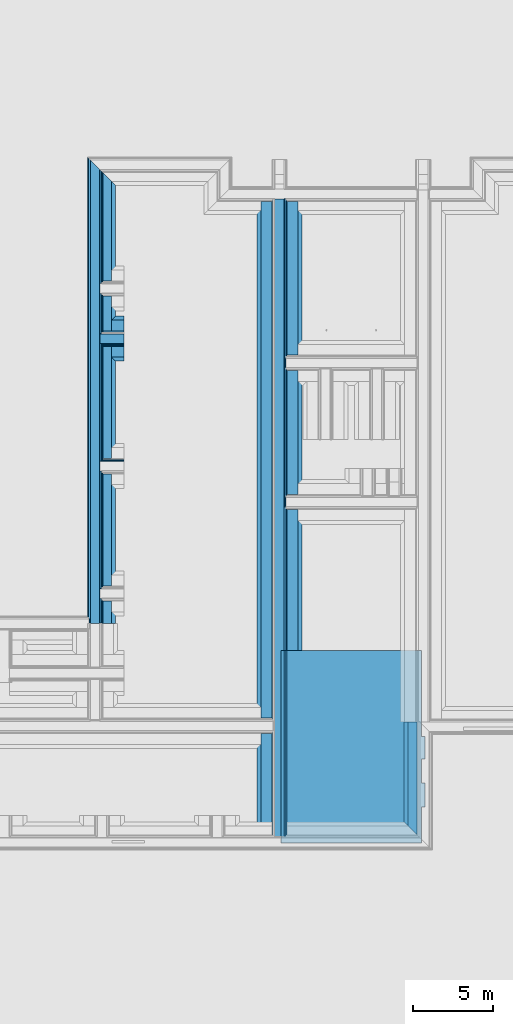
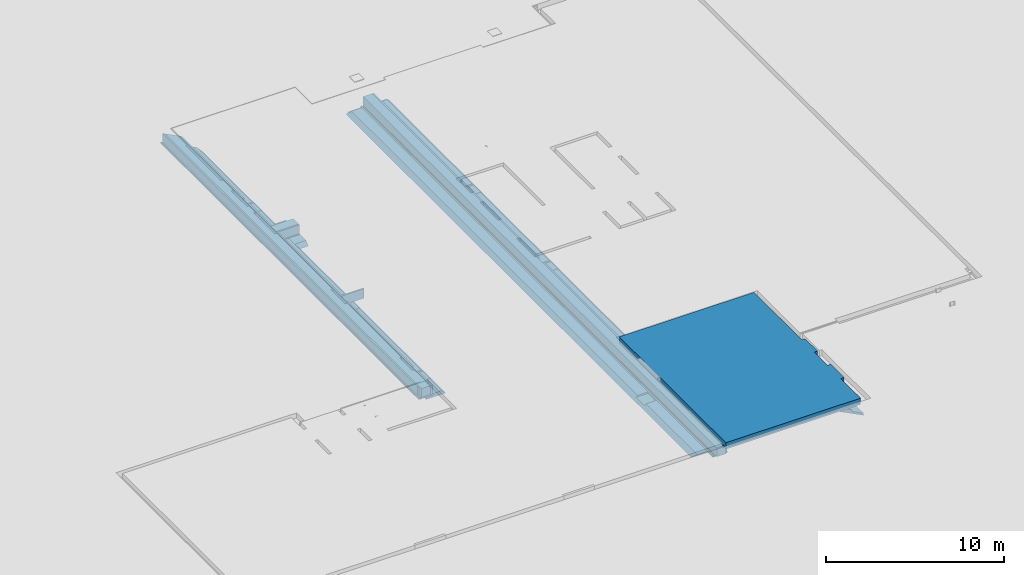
# One storey, part 8 of 15: 17 building element parts, 6 elements without a shape of their own.
"""IFC2X3 building model written with IfcOpenShell, lengths in millimetres."""

from ifc_helpers import new_model, entity, si_unit, converted_unit, derived_unit, money_unit, direction, frame, origin_with_axes, place, context, subcontext, project, spatial, faceted_brep, material, type_object, element, aggregate, save


model = new_model("IFC2X3")

# Units and contexts
model_context = context("Model", 3, precision=0.01, world=origin_with_axes(), true_north=direction((0.0, 1.0)))
plan_context = context("Plan", 3, precision=0.01, world=origin_with_axes(), true_north=direction((0.0, 1.0)))
body_context = subcontext(model_context, "Body", "Model", "MODEL_VIEW")
ifc_project = project(units=[si_unit("LENGTHUNIT", "METRE", prefix="MILLI"), si_unit("AREAUNIT", "SQUARE_METRE"), si_unit("VOLUMEUNIT", "CUBIC_METRE"), converted_unit("PLANEANGLEUNIT", "DEGREE", entity("IfcPlaneAngleMeasure", 0.0174532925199), si_unit("PLANEANGLEUNIT", "RADIAN"), dimensions=[0, 0, 0, 0, 0, 0, 0]), money_unit("EUR"), converted_unit("TIMEUNIT", "Year", entity("IfcTimeMeasure", 31556926.0), si_unit("TIMEUNIT", "SECOND"), dimensions=[0, 0, 1, 0, 0, 0, 0]), si_unit("MASSUNIT", "GRAM", prefix="KILO"), si_unit("THERMODYNAMICTEMPERATUREUNIT", "DEGREE_CELSIUS"), si_unit("LUMINOUSINTENSITYUNIT", "LUMEN"), si_unit("ENERGYUNIT", "JOULE", prefix="MEGA"), derived_unit("THERMALCONDUCTANCEUNIT", [(si_unit("POWERUNIT", "WATT"), 1), (si_unit("LENGTHUNIT", "METRE"), -1), (si_unit("THERMODYNAMICTEMPERATUREUNIT", "KELVIN"), -1)]), derived_unit("SPECIFICHEATCAPACITYUNIT", [(si_unit("ENERGYUNIT", "JOULE"), 1), (si_unit("MASSUNIT", "GRAM", prefix="KILO"), -1), (si_unit("THERMODYNAMICTEMPERATUREUNIT", "KELVIN"), -1)]), derived_unit("MASSDENSITYUNIT", [(si_unit("MASSUNIT", "GRAM", prefix="KILO"), 1), (si_unit("VOLUMEUNIT", "CUBIC_METRE"), -1)])], contexts=[model_context, plan_context])

# Site, building, storey
site_placement = place(None, origin_with_axes())
site = spatial("IfcSite", under=ifc_project, at=site_placement, Name="Site", CompositionType="ELEMENT")
building_placement = place(site_placement, origin_with_axes())
building = spatial("IfcBuilding", under=site, at=building_placement, Name="Naam gebouw", CompositionType="ELEMENT")
storey_placement = place(building_placement, frame((0.0, 0.0, -1050.0), z_axis=(0.0, 0.0, 1.0), x_axis=(1.0, 0.0, 0.0)))
storey = spatial("IfcBuildingStorey", under=building, at=storey_placement, Name="fundering", CompositionType="ELEMENT", Elevation=-1050.0)

# Beam, building element parts
beam_type_1 = type_object("IfcBeamType", Name="Fundering balk IsoBouw Powerkist 2800 x 850", PredefinedType="BEAM")
beam_1_placement = place(storey_placement, frame((24125.0, 36200.0, -60.0000017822), z_axis=(0.0, 0.0, 1.0), x_axis=(0.0, -1.0, 0.0)))
beam_1 = element("IfcBeam", 1, at=beam_1_placement, inside=storey, type_object=beam_type_1, Name="28_Balk-x", ObjectType="BEAM")
ifc_material_1 = material(Name="ALG - TERREIN")
building_element_part_1_placement = place(beam_1_placement, origin_with_axes())
building_element_part_1 = element("IfcBuildingElementPart", 2, at=building_element_part_1_placement, material=ifc_material_1, Name="ALG - TERREIN", context=body_context, shape_type="Brep", body=[
    faceted_brep([(1400.00037562, 1295.00000274, -249.999996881), (-1400.00037562, 1295.00000274, -249.999996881), (-1400.00037562, 1803.44907352, -249.999996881), (1400.00037562, 1803.44907352, -249.999996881), (-1150.00039795, 1045.00001313, -7.27431315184e-06), (1150.00039795, 1045.00001313, -7.27431315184e-06), (475.000395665, 1045.00001313, -7.27431315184e-06), (475.000395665, 1145.00001516, -100.000009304), (-475.000395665, 1145.00001516, -100.000009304), (-475.000395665, 1045.00001313, -7.27431315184e-06), (-1150.00039795, 1803.44907352, -1.92126834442e-05), (-475.000395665, 1803.44907352, -100.00001028), (475.000395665, 1803.44907352, -100.00001028), (475.000395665, 1803.44907352, 2.25106189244e-05), (1150.00039795, 1803.44907352, -1.92126834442e-05), (-475.000395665, 1803.44907352, 2.25106189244e-05)], [[[0, 1, 2, 3]], [[4, 1, 0, 5, 6, 7, 8, 9]], [[1, 4, 10, 2]], [[11, 12, 13, 14, 3, 2, 10, 15]], [[5, 0, 3, 14]], [[6, 5, 14, 13]], [[7, 6, 13, 12]], [[8, 7, 12, 11]], [[9, 8, 11, 15]], [[4, 9, 15, 10]]]),
])
ifc_material_2 = material(Name="Isolatie - EPS")
building_element_part_2_placement = place(beam_1_placement, origin_with_axes())
building_element_part_2 = element("IfcBuildingElementPart", 3, at=building_element_part_2_placement, material=ifc_material_2, Name="Isolatie - EPS", context=body_context, shape_type="Brep", body=[
    faceted_brep([(-475.000375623, 495.00000274, -99.9999968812), (-475.000375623, 495.00000274, 7.15338899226e-07), (-475.000375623, 1803.44907352, 8.43651903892e-06), (-475.000375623, 1803.44907352, -99.9999968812), (-400.000361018, 495.00000274, 7.15338899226e-07), (475.000375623, 495.00000274, -99.9999968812), (475.000375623, 495.00000274, 7.15338899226e-07), (400.000361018, 495.00000274, 7.15338899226e-07), (380.000371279, 495.00000274, 7.15338899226e-07), (380.000371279, 495.00000274, -49.0824435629), (300.000369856, 495.00000274, -49.0824435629), (300.000369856, 495.00000274, 7.15338899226e-07), (-300.000369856, 495.00000274, 7.15338899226e-07), (-300.000369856, 495.00000274, -49.0824435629), (-380.000371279, 495.00000274, -49.0824435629), (-380.000371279, 495.00000274, 7.15338899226e-07), (-400.000361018, 1803.44907352, 8.43651903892e-06), (300.000369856, 1803.44907352, -49.0824435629), (380.000371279, 1803.44907352, -49.0824435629), (380.000371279, 1803.44907352, 8.43651903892e-06), (400.000361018, 1803.44907352, 8.43651903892e-06), (475.000375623, 1803.44907352, 8.43651926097e-06), (475.000375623, 1803.44907352, -99.9999968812), (-380.000371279, 1803.44907352, 8.43651903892e-06), (-380.000371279, 1803.44907352, -49.0824435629), (-300.000369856, 1803.44907352, -49.0824435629), (-300.000369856, 1803.44907352, 8.43651903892e-06), (300.000369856, 1803.44907352, 8.43651903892e-06)], [[[0, 1, 2, 3]], [[4, 1, 0, 5, 6, 7, 8, 9, 10, 11, 12, 13, 14, 15]], [[1, 4, 16, 2]], [[17, 18, 19, 20, 21, 22, 3, 2, 16, 23, 24, 25, 26, 27]], [[5, 0, 3, 22]], [[6, 5, 22, 21]], [[7, 6, 21, 20]], [[8, 7, 20, 19]], [[9, 8, 19, 18]], [[10, 9, 18, 17]], [[11, 10, 17, 27]], [[12, 11, 27, 26]], [[13, 12, 26, 25]], [[14, 13, 25, 24]], [[15, 14, 24, 23]], [[4, 15, 23, 16]]]),
])
building_element_part_3_placement = place(beam_1_placement, origin_with_axes())
building_element_part_3 = element("IfcBuildingElementPart", 4, at=building_element_part_3_placement, material=ifc_material_2, Name="Isolatie - EPS", context=body_context, shape_type="Brep", body=[
    faceted_brep([(300.00036966, 495.00000274, 7.15338899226e-07), (300.00036966, 419.999990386, 7.15338899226e-07), (300.00036966, 419.999990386, 600.000000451), (300.00036966, 1803.44907352, 600.000004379), (300.00036966, 1803.44907352, -49.0824424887), (300.00036966, 495.00000274, -49.0824424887), (400.000366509, 1803.44907352, 2.4249691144e-06), (400.000366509, 419.999990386, 7.15338899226e-07), (380.000369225, 495.00000274, 7.15338899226e-07), (380.000369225, 1803.44907352, 2.4249691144e-06), (400.000366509, 419.999990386, 600.000000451), (400.000366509, 1803.44907352, 600.000004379), (380.000369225, 1803.44907352, -49.0824424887), (380.000369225, 495.00000274, -49.0824424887)], [[[0, 1, 2, 3, 4, 5]], [[6, 7, 1, 0, 8, 9]], [[7, 10, 2, 1]], [[3, 2, 10, 11]], [[12, 4, 3, 11, 6, 9]], [[12, 13, 5, 4]], [[8, 0, 5, 13]], [[11, 10, 7, 6]], [[9, 8, 13, 12]]]),
])
ifc_material_3 = material(Name="Beton gewapend C")
building_element_part_4_placement = place(beam_1_placement, origin_with_axes())
building_element_part_4 = element("IfcBuildingElementPart", 5, at=building_element_part_4_placement, material=ifc_material_3, Name="Beton gewapend C", context=body_context, shape_type="Brep", body=[
    faceted_brep([(-300.000372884, 1803.44907352, 0.0), (-300.000372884, 320.0, 1.78216552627e-06), (-300.000372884, 320.0, 600.000001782), (-300.000372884, 1803.44907352, 600.0), (300.000372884, 1803.44907352, 0.0), (300.000372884, 320.0, 1.78216552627e-06), (300.000372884, 320.0, 600.000001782), (300.000372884, 1803.44907352, 600.0)], [[[0, 1, 2, 3]], [[4, 5, 1, 0]], [[5, 6, 2, 1]], [[3, 2, 6, 7]], [[4, 0, 3, 7]], [[7, 6, 5, 4]]]),
])
aggregate(beam_1, [building_element_part_1, building_element_part_2, building_element_part_3, building_element_part_4])

# Beam, building element part
beam_type_2 = type_object("IfcBeamType", Name="Fundering balk IsoBouw Powerkist buitenwand 1750 x 850", PredefinedType="BEAM")
beam_2_placement = place(storey_placement, frame((44654.9999844, 12050.0000337, -60.0000017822), z_axis=(0.0, 0.0, 1.0), x_axis=(-1.0, 0.0, 0.0)))
beam_2 = element("IfcBeam", 6, at=beam_2_placement, inside=storey, type_object=beam_type_2, Name="28_Balk-x", ObjectType="BEAM")
building_element_part_5_placement = place(beam_2_placement, origin_with_axes())
building_element_part_5 = element("IfcBuildingElementPart", 7, at=building_element_part_5_placement, material=ifc_material_1, Name="ALG - TERREIN", context=body_context, shape_type="Brep", body=[
    faceted_brep([(320.000053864, -320.000053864, -249.999996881), (320.000053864, -320.000053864, -100.00001028), (20.0000061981, -20.0000061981, -99.9999926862), (20.0000061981, -20.0000061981, -249.999996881), (585.000380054, -320.000053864, 2.25106189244e-05), (495.000015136, -320.000053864, 8.43651903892e-06), (495.000015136, -320.000053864, -100.00001028), (1295.00000274, -320.000053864, -249.999996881), (1045.00001313, -320.000053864, -5.92301629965e-06), (495.000015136, 6704.99999725, -99.9999926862), (20.0000061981, 7180.00000594, -99.9999926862), (20.0000061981, 7180.00000594, -249.999996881), (1295.00000274, 5905.00001008, -249.999996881), (1045.00001313, 6154.99999956, -7.27431315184e-06), (495.000015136, 6704.99999725, -7.27431315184e-06)], [[[0, 1, 2, 3]], [[4, 5, 6, 1, 0, 7, 8]], [[1, 6, 9, 10, 2]], [[2, 10, 11, 3]], [[7, 0, 3, 11, 12]], [[4, 8, 13, 14, 5]], [[6, 5, 14, 9]], [[8, 7, 12, 13]], [[14, 13, 12, 11, 10, 9]]]),
])
aggregate(beam_2, [building_element_part_5])

# Beam, building element parts
beam_3_placement = place(storey_placement, frame((24125.0, 18495.0, -60.0000017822), z_axis=(0.0, 0.0, 1.0), x_axis=(1.0, 0.0, 0.0)))
beam_3 = element("IfcBeam", 8, at=beam_3_placement, inside=storey, type_object=beam_type_2, Name="28_Balk-x", ObjectType="BEAM")
building_element_part_6_placement = place(beam_3_placement, origin_with_axes())
building_element_part_6 = element("IfcBuildingElementPart", 9, at=building_element_part_6_placement, material=ifc_material_1, Name="ALG - TERREIN", context=body_context, shape_type="Brep", body=[
    faceted_brep([(1145.00000274, 21305.0003756, -99.9999968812), (1145.00000274, 20354.9996244, -99.9999968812), (1045.00001313, 20354.9996244, 3.96089849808e-06), (1045.00001313, 18180.0003756, 3.96089827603e-06), (1145.00000274, 18180.0003756, -99.9999968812), (1145.00000274, 17229.9996244, -99.9999968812), (1045.00001313, 17229.9996244, 3.96089849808e-06), (1045.00001313, 10255.0003756, 3.96089827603e-06), (1145.00000274, 10255.0003756, -99.9999968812), (1145.00000274, 9304.99962438, -99.9999968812), (1045.00001313, 9304.99962438, 3.96089849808e-06), (1045.00001313, 2330.00037562, 3.96089827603e-06), (1145.00000274, 2330.00037562, -99.9999968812), (1145.00000274, 1379.99962438, -99.9999968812), (1045.00001313, 1379.99962438, 3.96089849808e-06), (1045.00001313, 0.0, -7.27431315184e-06), (1295.00000274, 0.0, -249.999996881), (1295.00000274, 27246.9999748, -249.999996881), (1045.00001313, 27496.9999644, -7.27431315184e-06), (1045.00001313, 21305.0003756, 3.96089827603e-06), (495.00000274, 18180.0003756, -99.9999968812), (495.00000274, 20354.9996244, -99.9999968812), (495.00000274, 21305.0003756, -99.9999968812), (495.000015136, 28046.9999624, -99.9999926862), (20.0000061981, 28521.9999713, -99.9999926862), (20.0000061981, 0.0, -99.9999926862), (495.000015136, 0.0, -99.9999926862), (495.00000274, 1379.99962438, -99.9999968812), (495.00000274, 2330.00037562, -99.9999968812), (495.00000274, 9304.99962438, -99.9999968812), (495.00000274, 10255.0003756, -99.9999968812), (495.00000274, 17229.9996244, -99.9999968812), (495.00000274, 20354.9996244, 7.15338899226e-07), (495.00000274, 18180.0003756, 7.15338899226e-07), (495.00000274, 17229.9996244, 7.15338899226e-07), (495.00000274, 10255.0003756, 7.15338899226e-07), (495.00000274, 9304.99962438, 7.15338899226e-07), (495.00000274, 2330.00037562, 7.15338899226e-07), (495.00000274, 1379.99962438, 7.15338899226e-07), (495.000015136, 0.0, -7.27431315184e-06), (20.0000061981, 0.0, -249.999996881), (20.0000061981, 28521.9999713, -249.999996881), (495.000015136, 28046.9999624, -7.27431315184e-06), (495.00000274, 21305.0003756, 7.15338899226e-07)], [[[0, 1, 2, 3, 4, 5, 6, 7, 8, 9, 10, 11, 12, 13, 14, 15, 16, 17, 18, 19]], [[20, 21, 1, 0, 22, 23, 24, 25, 26, 27, 13, 12, 28, 29, 9, 8, 30, 31, 5, 4]], [[32, 2, 1, 21]], [[3, 2, 32, 33]], [[4, 3, 33, 20]], [[6, 5, 31, 34]], [[6, 34, 35, 7]], [[35, 30, 8, 7]], [[29, 36, 10, 9]], [[37, 11, 10, 36]], [[11, 37, 28, 12]], [[13, 27, 38, 14]], [[38, 39, 15, 14]], [[39, 26, 25, 40, 16, 15]], [[40, 41, 17, 16]], [[17, 41, 24, 23, 42, 18]], [[42, 43, 19, 18]], [[22, 0, 19, 43]], [[33, 32, 21, 20]], [[23, 22, 43, 42]], [[25, 24, 41, 40]], [[27, 26, 39, 38]], [[28, 37, 36, 29]], [[34, 31, 30, 35]]]),
])
building_element_part_7_placement = place(beam_3_placement, origin_with_axes())
building_element_part_7 = element("IfcBuildingElementPart", 10, at=building_element_part_7_placement, material=ifc_material_2, Name="Isolatie - EPS", context=body_context, shape_type="Brep", body=[
    faceted_brep([(400.000002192, 0.0, 7.15338899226e-07), (400.000002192, 28141.9999753, 7.15338899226e-07), (400.000002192, 28141.9999753, -49.0824410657), (400.000002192, 0.0, -49.0824410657), (419.999990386, 0.0, 7.15338899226e-07), (419.999990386, 28121.9999871, 7.15338899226e-07), (-279.99999279, 28821.9999703, -49.0824410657), (-279.99999279, 28821.9999703, 7.15338899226e-07), (319.99999279, 28221.9999847, 7.15338899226e-07), (319.99999279, 28221.9999847, -49.0824410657), (495.00000274, 28046.9999748, 7.15338899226e-07), (495.00000274, 28046.9999748, -99.9999968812), (20.0000061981, 28521.9999713, -99.9999926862), (-455.00000274, 28996.9999802, -99.9999968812), (-455.00000274, 28996.9999802, 7.15338899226e-07), (-379.999990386, 28921.9999679, 7.15338899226e-07), (-360.000002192, 28901.9999797, 7.15338899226e-07), (-360.000002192, 28901.9999797, -49.0824410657), (319.99999279, 0.0, -49.0824410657), (-455.00000274, 0.0, -99.9999968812), (20.0000061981, 0.0, -99.9999926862), (495.00000274, 0.0, -99.9999968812), (495.00000274, 0.0, 7.15338899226e-07), (319.99999279, 0.0, 7.15338899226e-07), (-279.99999279, 0.0, 7.15338899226e-07), (-279.99999279, 0.0, -49.0824410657), (-360.000002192, 0.0, -49.0824410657), (-360.000002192, 0.0, 7.15338899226e-07), (-379.999990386, 0.0, 7.15338899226e-07), (-455.00000274, 0.0, 7.15338899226e-07)], [[[0, 1, 2, 3]], [[4, 5, 1, 0]], [[6, 7, 8, 9, 2, 1, 5, 10, 11, 12, 13, 14, 15, 16, 17]], [[3, 2, 9, 18]], [[19, 20, 21, 22, 4, 0, 3, 18, 23, 24, 25, 26, 27, 28, 29]], [[22, 10, 5, 4]], [[24, 7, 6, 25]], [[23, 8, 7, 24]], [[18, 9, 8, 23]], [[21, 11, 10, 22]], [[20, 12, 11, 21]], [[19, 13, 12, 20]], [[29, 14, 13, 19]], [[28, 15, 14, 29]], [[27, 16, 15, 28]], [[26, 17, 16, 27]], [[25, 6, 17, 26]]]),
])
building_element_part_8_placement = place(beam_3_placement, origin_with_axes())
building_element_part_8 = element("IfcBuildingElementPart", 11, at=building_element_part_8_placement, material=ifc_material_2, Name="Isolatie - EPS", context=body_context, shape_type="Brep", body=[
    faceted_brep([(-379.999993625, 28921.9999711, 600.000001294), (-379.999993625, 280.0, 599.999999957), (-280.0, 280.0, 600.0), (-279.999999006, 28821.9999765, 600.000001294), (-379.999993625, 28921.9999711, 2.28759100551e-06), (-379.999993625, 280.0, -4.30000479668e-08), (-359.999996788, 280.0, -3.43998163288e-08), (-280.0, 280.0, 0.0), (-280.0, 0.0, 0.0), (-279.999999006, 0.0, -49.0824424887), (-279.999999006, 28821.9999765, -49.0824424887), (-359.999996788, 28901.9999743, -49.0824424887), (-359.999996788, 28901.9999743, 2.28759100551e-06), (-359.999996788, 0.0, 1.78216552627e-06), (-359.999996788, 0.0, -49.0824424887)], [[[0, 1, 2, 3]], [[4, 5, 1, 0]], [[6, 7, 2, 1, 5]], [[2, 7, 8, 9, 10, 3]], [[11, 12, 4, 0, 3, 10]], [[12, 6, 5, 4]], [[13, 8, 7, 6]], [[9, 8, 13, 14]], [[9, 14, 11, 10]], [[14, 13, 6, 12, 11]]]),
])
building_element_part_9_placement = place(beam_3_placement, origin_with_axes())
building_element_part_9 = element("IfcBuildingElementPart", 12, at=building_element_part_9_placement, material=ifc_material_2, Name="Isolatie - EPS", context=body_context, shape_type="Brep", body=[
    faceted_brep([(419.999993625, 28121.9999839, 600.000003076), (319.999999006, 28221.9999785, 600.000003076), (320.0, 21130.0003729, 600.000001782), (419.999993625, 21130.0003729, 600.000001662), (419.999993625, 28121.9999839, 4.06975675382e-06), (399.999996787, 28141.9999807, 4.06975675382e-06), (399.999996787, 28141.9999807, -49.0824407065), (319.999999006, 28221.9999785, -49.0824407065), (320.0, 20529.9996271, 600.000001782), (320.0, 20529.9996271, 1.78216552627e-06), (320.0, 21130.0003729, 1.78216552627e-06), (319.999999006, 0.0, -49.0824407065), (319.999999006, 0.0, 600.000003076), (320.0, 1554.99962712, 600.000001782), (320.0, 1554.99962712, 1.78216552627e-06), (320.0, 2155.00037288, 1.78216552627e-06), (320.0, 2155.00037288, 600.000001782), (320.0, 9479.99962712, 600.000001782), (320.0, 9479.99962712, 1.78216552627e-06), (320.0, 10080.0003729, 1.78216552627e-06), (320.0, 10080.0003729, 600.000001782), (320.0, 17404.9996271, 600.000001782), (320.0, 17404.9996271, 1.78216552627e-06), (320.0, 18005.0003729, 1.78216552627e-06), (320.0, 18005.0003729, 600.000001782), (399.999996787, 21130.0003729, 1.68605618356e-06), (419.999993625, 21130.0003729, 1.6620289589e-06), (399.999996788, 20529.9996271, 1.68605618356e-06), (399.999996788, 18005.0003729, 1.68605618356e-06), (399.999996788, 17404.9996271, 1.68605618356e-06), (399.999996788, 10080.0003729, 1.68605618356e-06), (399.999996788, 9479.99962712, 1.68605618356e-06), (399.999996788, 2155.00037288, 1.68605618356e-06), (399.999996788, 1554.99962712, 1.68605618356e-06), (399.999996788, 0.0, 4.06975675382e-06), (399.999996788, 0.0, -49.0824407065), (419.999993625, 20529.9996271, 600.000001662), (419.999993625, 20529.9996271, 1.6620289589e-06), (419.999993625, 0.0, 600.000003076), (419.999993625, 0.0, 4.06975675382e-06), (419.999993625, 1554.99962712, 600.000001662), (419.999993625, 1554.99962712, 1.6620289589e-06), (419.999993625, 2155.00037288, 600.000001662), (419.999993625, 2155.00037288, 1.6620289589e-06), (419.999993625, 9479.99962712, 600.000001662), (419.999993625, 9479.99962712, 1.6620289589e-06), (419.999993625, 10080.0003729, 1.6620289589e-06), (419.999993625, 10080.0003729, 600.000001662), (419.999993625, 17404.9996271, 600.000001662), (419.999993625, 17404.9996271, 1.6620289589e-06), (419.999993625, 18005.0003729, 1.6620289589e-06), (419.999993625, 18005.0003729, 600.000001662)], [[[0, 1, 2, 3]], [[0, 4, 5, 6, 7, 1]], [[8, 9, 10, 2, 1, 7, 11, 12, 13, 14, 15, 16, 17, 18, 19, 20, 21, 22, 23, 24]], [[10, 25, 26, 3, 2]], [[4, 0, 3, 26]], [[5, 4, 26, 25]], [[6, 5, 25, 27, 28, 29, 30, 31, 32, 33, 34, 35]], [[35, 11, 7, 6]], [[27, 9, 8, 36, 37]], [[10, 9, 27, 25]], [[38, 12, 11, 35, 34, 39]], [[40, 13, 12, 38]], [[40, 41, 33, 14, 13]], [[33, 32, 15, 14]], [[42, 16, 15, 32, 43]], [[17, 16, 42, 44]], [[45, 31, 18, 17, 44]], [[30, 19, 18, 31]], [[20, 19, 30, 46, 47]], [[47, 48, 21, 20]], [[21, 48, 49, 29, 22]], [[22, 29, 28, 23]], [[50, 51, 24, 23, 28]], [[24, 51, 36, 8]], [[50, 28, 27, 37]], [[30, 29, 49, 46]], [[45, 43, 32, 31]], [[33, 41, 39, 34]], [[51, 50, 37, 36]], [[41, 40, 38, 39]], [[44, 42, 43, 45]], [[46, 49, 48, 47]]]),
])
building_element_part_10_placement = place(beam_3_placement, origin_with_axes())
building_element_part_10 = element("IfcBuildingElementPart", 13, at=building_element_part_10_placement, material=ifc_material_3, Name="Beton gewapend C", context=body_context, shape_type="Brep", body=[
    faceted_brep([(320.0, 0.0, 600.000001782), (320.0, 28221.9999775, 600.000001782), (-280.0, 28821.9999775, 600.0), (-280.0, 0.0, 600.0), (320.0, 0.0, 1.78216552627e-06), (320.0, 28221.9999775, 1.78216552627e-06), (-280.0, 28821.9999775, 0.0), (-280.0, 0.0, 0.0)], [[[0, 1, 2, 3]], [[4, 5, 1, 0]], [[2, 1, 5, 6]], [[3, 2, 6, 7]], [[4, 0, 3, 7]], [[7, 6, 5, 4]]]),
])
aggregate(beam_3, [building_element_part_6, building_element_part_7, building_element_part_8, building_element_part_9, building_element_part_10])

# Beam, building element part
beam_4_placement = place(storey_placement, frame((24125.0, 28275.0, -60.0000017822), z_axis=(0.0, 0.0, 1.0), x_axis=(0.0, -1.0, 0.0)))
beam_4 = element("IfcBeam", 14, at=beam_4_placement, inside=storey, type_object=beam_type_1, Name="28_Balk-x", ObjectType="BEAM")
building_element_part_11_placement = place(beam_4_placement, origin_with_axes())
building_element_part_11 = element("IfcBuildingElementPart", 15, at=building_element_part_11_placement, material=ifc_material_2, Name="Isolatie - EPS", context=body_context, shape_type="Brep", body=[
    faceted_brep([(-380.000369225, 1803.44907352, -49.0824424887), (-380.000369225, 495.00000274, -49.0824424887), (-380.000369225, 495.00000274, 7.15338899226e-07), (-380.000369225, 1803.44907352, 2.4249691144e-06), (-300.00036966, 1803.44907352, -49.0824424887), (-300.00036966, 495.00000274, -49.0824424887), (-300.00036966, 495.00000274, 7.15338899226e-07), (-300.00036966, 419.999990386, 7.15338899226e-07), (-400.000366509, 419.999990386, 7.15338899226e-07), (-400.000366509, 1803.44907352, 2.4249691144e-06), (-400.000366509, 1803.44907352, 600.000004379), (-300.00036966, 1803.44907352, 600.000004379), (-300.00036966, 419.999990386, 600.000000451), (-400.000366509, 419.999990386, 600.000000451)], [[[0, 1, 2, 3]], [[4, 5, 1, 0]], [[6, 2, 1, 5]], [[6, 7, 8, 9, 3, 2]], [[4, 0, 3, 9, 10, 11]], [[7, 6, 5, 4, 11, 12]], [[7, 12, 13, 8]], [[9, 8, 13, 10]], [[10, 13, 12, 11]]]),
])
aggregate(beam_4, [building_element_part_11])

# Furnishing, building element parts
furniture_type = type_object("IfcFurnitureType", Name="23 kanaaplaat VBI Rc 3,7 132mm excl. afwerklaag 440", AssemblyPlace="NOTDEFINED")
furnishing_placement = place(storey_placement, frame((35705.0, 16825.0, 510.0), z_axis=(0.0, 0.0, 1.0), x_axis=(1.0, 0.0, 0.0)))
furnishing = element("IfcFurnishingElement", 16, at=furnishing_placement, inside=storey, type_object=furniture_type, Name="72_23 VBI 260 Rc 3,7", ObjectType="SHELF")
ifc_material_4 = material(Name="Beton gewapend prefab vloer")
building_element_part_12_placement = place(furnishing_placement, origin_with_axes())
building_element_part_12 = element("IfcBuildingElementPart", 17, at=building_element_part_12_placement, material=ifc_material_4, Name="Beton gewapend prefab vloer", context=body_context, shape_type="Brep", body=[
    faceted_brep([(0.0, -11975.0, 120.0), (0.0, -11975.0, 440.0), (0.0, 0.0, 440.0), (0.0, 0.0, 120.0), (8740.0001785, -11975.0, 120.0), (8740.0001785, -11975.0, 440.0), (8740.0001785, -9759.9904873, 440.0), (8950.00016445, -9759.9904873, 440.0), (8950.00034063, -8259.99041151, 440.0), (8740.00053088, -8259.99041151, 440.0), (8740.00053088, -6774.99993694, 440.0), (8950.00034063, -6774.99993694, 440.0), (8950.00016445, -5375.00008937, 440.0), (8740.00070707, -5374.99956081, 440.0), (8740.00070707, 0.0, 440.0), (8740.00070707, 0.0, 120.0), (8740.00070707, -5374.99956081, 120.0), (8950.00016445, -5375.00008937, 120.0), (8950.00034063, -6774.99993694, 120.0), (8740.00053088, -6774.99993694, 120.0), (8740.00053088, -8259.99041151, 120.0), (8950.00034063, -8259.99041151, 120.0), (8950.00016445, -9759.9904873, 120.0), (8740.0001785, -9759.9904873, 120.0)], [[[0, 1, 2, 3]], [[4, 5, 1, 0]], [[2, 1, 5, 6, 7, 8, 9, 10, 11, 12, 13, 14]], [[3, 2, 14, 15]], [[3, 15, 16, 17, 18, 19, 20, 21, 22, 23, 4, 0]], [[23, 6, 5, 4]], [[22, 7, 6, 23]], [[21, 8, 7, 22]], [[20, 9, 8, 21]], [[19, 10, 9, 20]], [[18, 11, 10, 19]], [[17, 12, 11, 18]], [[16, 13, 12, 17]], [[15, 14, 13, 16]]]),
])
ifc_material_5 = material(Name="Isolatie - EPS vloer")
building_element_part_13_placement = place(furnishing_placement, origin_with_axes())
building_element_part_13 = element("IfcBuildingElementPart", 18, at=building_element_part_13_placement, material=ifc_material_5, Name="Isolatie - EPS vloer", context=body_context, shape_type="Brep", body=[
    faceted_brep([(0.0, 0.0, 0.0), (0.0, -11975.0, 0.0), (0.0, -11975.0, 120.0), (0.0, 0.0, 120.0), (8740.00070707, 0.0, 0.0), (8740.00070707, -5374.99956081, 0.0), (8950.00016445, -5375.00008937, 0.0), (8950.00034063, -6774.99993694, 0.0), (8740.00053088, -6774.99993694, 0.0), (8740.00053088, -8259.99041151, 0.0), (8950.00034063, -8259.99041151, 0.0), (8950.00016445, -9759.9904873, 0.0), (8740.0001785, -9759.9904873, 0.0), (8740.0001785, -11975.0, 0.0), (8740.0001785, -11975.0, 120.0), (8740.0001785, -9759.9904873, 120.0), (8950.00016445, -9759.9904873, 120.0), (8950.00034063, -8259.99041151, 120.0), (8740.00053088, -8259.99041151, 120.0), (8740.00053088, -6774.99993694, 120.0), (8950.00034063, -6774.99993694, 120.0), (8950.00016445, -5375.00008937, 120.0), (8740.00070707, -5374.99956081, 120.0), (8740.00070707, 0.0, 120.0)], [[[0, 1, 2, 3]], [[0, 4, 5, 6, 7, 8, 9, 10, 11, 12, 13, 1]], [[1, 13, 14, 2]], [[3, 2, 14, 15, 16, 17, 18, 19, 20, 21, 22, 23]], [[4, 0, 3, 23]], [[5, 4, 23, 22]], [[6, 5, 22, 21]], [[7, 6, 21, 20]], [[8, 7, 20, 19]], [[9, 8, 19, 18]], [[10, 9, 18, 17]], [[11, 10, 17, 16]], [[12, 11, 16, 15]], [[13, 12, 15, 14]]]),
])
aggregate(furnishing, [building_element_part_12, building_element_part_13])

# Beam, building element parts
beam_5_placement = place(storey_placement, frame((35605.0, 44903.0000407, -60.0000017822), z_axis=(0.0, 0.0, 1.0), x_axis=(-1.0, 0.0, 0.0)))
beam_5 = element("IfcBeam", 19, at=beam_5_placement, inside=storey, type_object=beam_type_1, Name="28_Balk-x", ObjectType="BEAM")
building_element_part_14_placement = place(beam_5_placement, origin_with_axes())
building_element_part_14 = element("IfcBuildingElementPart", 20, at=building_element_part_14_placement, material=ifc_material_1, Name="ALG - TERREIN", context=body_context, shape_type="Brep", body=[
    faceted_brep([(-1150.00039795, 39008.0000103, 4.91828799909e-09), (-1400.00037629, 38758.0000205, -249.999996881), (-1400.00037562, 0.0, -249.999996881), (-1250.00037562, 2.96205797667e-05, -99.9999968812), (-1250.00037562, 175.000043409, -99.9999968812), (-1150.00039795, 175.000043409, 3.86505583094e-06), (-1150.00039795, 9727.99962927, 1.52455683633e-05), (-1250.00037562, 9727.99962927, -99.9999968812), (-1250.00037562, 10678.0003805, -99.9999968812), (-1150.00039795, 10678.0003805, 1.52455683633e-05), (-1150.00039795, 18387.999665, 1.52455683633e-05), (-1250.00037562, 18387.999665, -99.9999968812), (-1250.00037562, 19338.0004163, -99.9999968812), (-1150.00039795, 19338.0004163, 1.52455683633e-05), (1400.00037587, 38758.000022, -249.999996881), (-475.000394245, 39008.0000106, 7.21691595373e-07), (-475.000394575, 38908.0000108, -100.000007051), (475.000392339, 38908.0000126, -100.000005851), (475.000391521, 39008.0000111, 1.73048464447e-06), (1150.00039795, 39008.0000115, 2.44725817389e-06), (1400.00037562, 0.0, -249.999996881), (475.000395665, 0.0, -99.9999968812), (-475.000395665, 0.0, -99.9999968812), (1250.00037667, 2.96205797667e-05, -99.9999968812), (-475.000395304, 175.000043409, -99.9999968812), (-475.000395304, 175.000043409, 3.44321882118e-06), (-475.000375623, 9727.99962927, 1.52455683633e-05), (-475.000375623, 9727.99962927, -99.9999968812), (-475.000375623, 19338.0004163, -99.9999968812), (-475.000375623, 18387.999665, -99.9999968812), (-475.000375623, 10678.0003805, -99.9999968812), (475.000395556, 175.000043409, -99.9999968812), (475.000375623, 32302.9992922, -99.9999968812), (1250.00037562, 32302.9992922, -99.9999968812), (1250.00037562, 33253.0007892, -99.9999968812), (475.000375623, 33253.0007892, -99.9999968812), (-475.000375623, 10678.0003805, 1.52455683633e-05), (-475.000375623, 18387.999665, 1.52455683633e-05), (-475.000375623, 19338.0004163, 1.52455683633e-05), (475.000375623, 33253.0007892, 1.52455683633e-05), (1150.00039795, 33253.0007892, 1.495473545e-05), (1150.00039795, 32302.9992922, 1.495473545e-05), (1150.00039795, 175.000043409, 2.42768471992e-06), (1250.00040979, 175.000043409, -99.9999968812), (475.000395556, 175.000043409, 2.84952172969e-06), (475.000375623, 32302.9992922, 1.52455683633e-05)], [[[0, 1, 2, 3, 4, 5, 6, 7, 8, 9, 10, 11, 12, 13]], [[14, 1, 0, 15, 16, 17, 18, 19]], [[1, 14, 20, 2]], [[21, 22, 3, 2, 20, 23]], [[24, 4, 3, 22]], [[25, 5, 4, 24]], [[6, 5, 25, 26]], [[6, 26, 27, 7]], [[17, 16, 28, 12, 11, 29, 30, 8, 7, 27, 24, 22, 21, 31, 32, 33, 34, 35]], [[8, 30, 36, 9]], [[9, 36, 37, 10]], [[37, 29, 11, 10]], [[28, 38, 13, 12]], [[15, 0, 13, 38]], [[16, 15, 38, 28]], [[18, 17, 35, 39]], [[19, 18, 39, 40]], [[14, 19, 40, 34, 33, 41, 42, 43, 23, 20]], [[43, 31, 21, 23]], [[26, 25, 24, 27]], [[36, 30, 29, 37]], [[32, 31, 44, 45]], [[32, 45, 41, 33]], [[40, 39, 35, 34]], [[45, 44, 42, 41]], [[43, 42, 44, 31]]]),
])
building_element_part_15_placement = place(beam_5_placement, origin_with_axes())
building_element_part_15 = element("IfcBuildingElementPart", 21, at=building_element_part_15_placement, material=ifc_material_2, Name="Isolatie - EPS", context=body_context, shape_type="Brep", body=[
    faceted_brep([(-400.000361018, 39558.0000211, 7.15338899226e-07), (-475.000375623, 39558.000021, 7.15338899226e-07), (-475.000375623, 0.0, 8.43651903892e-06), (-400.000361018, 0.0, 8.43651903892e-06), (-475.000375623, 39558.000021, -99.9999968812), (-380.000371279, 39558.0000211, 7.15338899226e-07), (-380.000371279, 39558.0000211, -49.0824435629), (-300.000369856, 39558.0000211, -49.0824435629), (-300.000369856, 39558.0000211, 7.15338899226e-07), (300.000369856, 39558.0000214, 7.15338899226e-07), (300.000369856, 39558.0000214, -49.0824435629), (380.000371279, 39558.0000215, -49.0824435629), (380.000371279, 39558.0000215, 7.15338899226e-07), (400.000361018, 39558.0000215, 7.15338899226e-07), (475.000375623, 39558.0000215, 7.15338899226e-07), (475.000375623, 39558.0000215, -99.9999968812), (-475.000375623, 0.0, -99.9999968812), (475.000375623, 0.0, -99.9999968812), (475.000375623, 0.0, 8.43651926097e-06), (400.000361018, 0.0, 8.43651903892e-06), (380.000371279, 0.0, 8.43651903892e-06), (380.000371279, 0.0, -49.0824435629), (300.000369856, 0.0, -49.0824435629), (300.000369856, 0.0, 8.43651903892e-06), (-300.000369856, 0.0, 8.43651903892e-06), (-300.000369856, 0.0, -49.0824435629), (-380.000371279, 0.0, -49.0824435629), (-380.000371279, 0.0, 8.43651903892e-06)], [[[0, 1, 2, 3]], [[4, 1, 0, 5, 6, 7, 8, 9, 10, 11, 12, 13, 14, 15]], [[1, 4, 16, 2]], [[3, 2, 16, 17, 18, 19, 20, 21, 22, 23, 24, 25, 26, 27]], [[5, 0, 3, 27]], [[6, 5, 27, 26]], [[7, 6, 26, 25]], [[8, 7, 25, 24]], [[9, 8, 24, 23]], [[10, 9, 23, 22]], [[11, 10, 22, 21]], [[12, 11, 21, 20]], [[13, 12, 20, 19]], [[14, 13, 19, 18]], [[15, 14, 18, 17]], [[4, 15, 17, 16]]]),
])
building_element_part_16_placement = place(beam_5_placement, origin_with_axes())
building_element_part_16 = element("IfcBuildingElementPart", 22, at=building_element_part_16_placement, material=ifc_material_2, Name="Isolatie - EPS", context=body_context, shape_type="Brep", body=[
    faceted_brep([(-300.000371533, 28078.0000406, 600.000000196), (-400.000366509, 28078.0000406, 600.000000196), (-400.000366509, 19163.0004136, 600.0), (-300.000372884, 19163.0004136, 600.0), (-400.000366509, 28078.0000406, 570.000001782), (-300.000372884, 28078.0000406, 570.000001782), (-400.000366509, 39633.0000334, 570.000001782), (-400.000366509, 39633.0000334, 7.15338899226e-07), (-400.000366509, 19163.0004136, 0.0), (-380.000369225, 19163.0004136, 0.0), (-300.000372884, 19163.0004136, 0.0), (-300.000372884, 18562.9996678, 0.0), (-300.000372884, 18562.9996678, 600.0), (-300.000372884, 10503.0003778, 600.0), (-300.000372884, 10503.0003778, 0.0), (-300.000372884, 9902.99963201, 0.0), (-300.000372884, 9902.99963201, 600.0), (-300.00036966, 0.0, 600.000004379), (-300.00036966, 0.0, -49.0824424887), (-300.00036966, 39558.0000211, -49.0824424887), (-300.000372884, 39558.0000211, 7.15338899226e-07), (-300.000372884, 39633.0000335, 7.15338899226e-07), (-300.000369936, 39633.0000335, 570.000001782), (-380.000369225, 39558.0000211, 7.15338899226e-07), (-380.000369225, 18562.9996678, 0.0), (-400.000366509, 18562.9996678, 0.0), (-400.000366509, 18562.9996678, 600.0), (-400.000366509, 10503.0003778, 600.0), (-400.000366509, 10503.0003778, 0.0), (-380.000369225, 10503.0003778, 0.0), (-380.000369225, 9902.99963201, 0.0), (-400.000366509, 9902.99963201, 600.0), (-400.000366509, 9902.99963201, 0.0), (-400.000366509, 0.0, 600.000004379), (-400.000366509, 0.0, 2.4249691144e-06), (-380.000369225, 0.0, 2.4249691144e-06), (-380.000369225, 0.0, -49.0824424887), (-380.000369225, 39558.0000211, -49.0824424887)], [[[0, 1, 2, 3]], [[4, 1, 0, 5]], [[4, 6, 7, 8, 2, 1]], [[8, 9, 10, 3, 2]], [[5, 0, 3, 10, 11, 12, 13, 14, 15, 16, 17, 18, 19, 20, 21, 22]], [[6, 4, 5, 22]], [[6, 22, 21, 7]], [[8, 7, 21, 20, 23, 9]], [[24, 11, 10, 9]], [[12, 11, 24, 25, 26]], [[26, 27, 13, 12]], [[27, 28, 29, 14, 13]], [[29, 30, 15, 14]], [[31, 16, 15, 30, 32]], [[16, 31, 33, 17]], [[34, 35, 36, 18, 17, 33]], [[36, 37, 19, 18]], [[19, 37, 23, 20]], [[9, 23, 37, 36, 35, 30, 29, 24]], [[24, 29, 28, 25]], [[25, 28, 27, 26]], [[32, 30, 35, 34]], [[31, 32, 34, 33]]]),
])
building_element_part_17_placement = place(beam_5_placement, origin_with_axes())
building_element_part_17 = element("IfcBuildingElementPart", 23, at=building_element_part_17_placement, material=ifc_material_3, Name="Beton gewapend C", context=body_context, shape_type="Brep", body=[
    faceted_brep([(-100.0, 39733.000024, 600.000001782), (-100.0, 28078.0000406, 600.000001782), (-300.000372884, 28078.0000406, 600.000001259), (-300.000372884, 0.0, 600.0), (300.000372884, 0.0, 600.0), (300.000372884, 39733.0000242, 600.000001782), (-100.0, 39733.000024, 570.000001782), (-100.0, 28078.0000406, 570.000001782), (-300.000372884, 28078.0000406, 570.000001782), (-300.000372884, 39733.0000239, 570.000001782), (-300.000372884, 39733.0000239, 1.78216552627e-06), (-300.000372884, 0.0, 0.0), (300.000372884, 0.0, 0.0), (300.000372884, 39733.0000242, 1.78216552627e-06)], [[[0, 1, 2, 3, 4, 5]], [[1, 0, 6, 7]], [[8, 2, 1, 7]], [[8, 9, 10, 11, 3, 2]], [[3, 11, 12, 4]], [[12, 13, 5, 4]], [[6, 0, 5, 13, 10, 9]], [[9, 8, 7, 6]], [[11, 10, 13, 12]]]),
])
aggregate(beam_5, [building_element_part_14, building_element_part_15, building_element_part_16, building_element_part_17])

save(model, "model.ifc")
